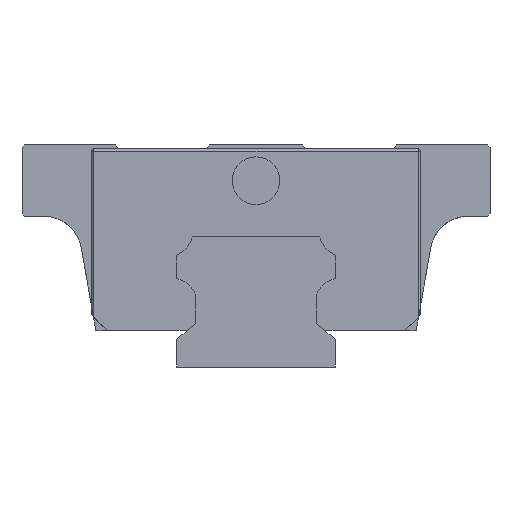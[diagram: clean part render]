
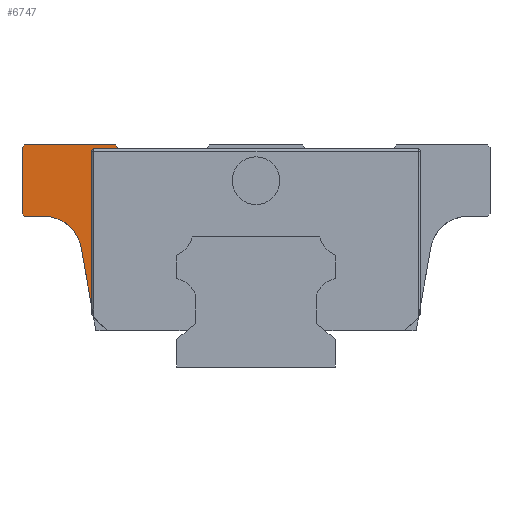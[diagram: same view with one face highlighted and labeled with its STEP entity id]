
A CAD part, left-side view. The second image highlights one B-rep face of the part: STEP entity #6747.
In plain terms, the highlighted planar face has unit normal (-1, 0, 0).
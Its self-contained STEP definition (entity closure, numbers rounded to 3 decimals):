
#182 = VERTEX_POINT ( 'NONE', #6853 ) ;
#212 = VECTOR ( 'NONE', #935, 1000. ) ;
#220 = DIRECTION ( 'NONE',  ( 0., 1., 0. ) ) ;
#221 = VERTEX_POINT ( 'NONE', #2458 ) ;
#358 = CARTESIAN_POINT ( 'NONE',  ( -23.35, 29.5, 19. ) ) ;
#365 = LINE ( 'NONE', #2621, #4552 ) ;
#409 = DIRECTION ( 'NONE',  ( 1., 0., 0. ) ) ;
#437 = CIRCLE ( 'NONE', #5624, 4.75 ) ;
#513 = LINE ( 'NONE', #6689, #5243 ) ;
#520 = ORIENTED_EDGE ( 'NONE', *, *, #5217, .T. ) ;
#572 = LINE ( 'NONE', #2244, #5264 ) ;
#649 = ORIENTED_EDGE ( 'NONE', *, *, #3395, .T. ) ;
#852 = EDGE_CURVE ( 'NONE', #6588, #6713, #437, .T. ) ;
#871 = CARTESIAN_POINT ( 'NONE',  ( -23.35, 29.205, 28. ) ) ;
#935 = DIRECTION ( 'NONE',  ( 0., -1., 0. ) ) ;
#947 = DIRECTION ( 'NONE',  ( -1., 0., 0. ) ) ;
#1073 = LINE ( 'NONE', #2295, #6769 ) ;
#1306 = CARTESIAN_POINT ( 'NONE',  ( -23.35, 20.752, 26.875 ) ) ;
#1310 = LINE ( 'NONE', #2389, #1494 ) ;
#1348 = AXIS2_PLACEMENT_3D ( 'NONE', #5802, #4761, #3627 ) ;
#1484 = DIRECTION ( 'NONE',  ( 0., -0.174, -0.985 ) ) ;
#1494 = VECTOR ( 'NONE', #220, 1000. ) ;
#1683 = VERTEX_POINT ( 'NONE', #2412 ) ;
#1802 = VERTEX_POINT ( 'NONE', #871 ) ;
#1859 = ORIENTED_EDGE ( 'NONE', *, *, #5030, .T. ) ;
#2044 = ORIENTED_EDGE ( 'NONE', *, *, #852, .T. ) ;
#2077 = VECTOR ( 'NONE', #3005, 1000. ) ;
#2134 = DIRECTION ( 'NONE',  ( 0., 0., 1. ) ) ;
#2244 = CARTESIAN_POINT ( 'NONE',  ( -23.35, 17.228, 27.438 ) ) ;
#2295 = CARTESIAN_POINT ( 'NONE',  ( -23.35, -20.542, 27.505 ) ) ;
#2389 = CARTESIAN_POINT ( 'NONE',  ( -23.35, 17.7, 28. ) ) ;
#2412 = CARTESIAN_POINT ( 'NONE',  ( -23.35, 17.7, 28. ) ) ;
#2458 = CARTESIAN_POINT ( 'NONE',  ( -23.35, 17.285, 27.505 ) ) ;
#2540 = EDGE_CURVE ( 'NONE', #5247, #5805, #4117, .T. ) ;
#2588 = CARTESIAN_POINT ( 'NONE',  ( -23.35, 22.036, 15.075 ) ) ;
#2621 = CARTESIAN_POINT ( 'NONE',  ( -23.35, 21.932, 35.273 ) ) ;
#2775 = CARTESIAN_POINT ( 'NONE',  ( -23.35, 26.714, 14.25 ) ) ;
#2852 = EDGE_CURVE ( 'NONE', #221, #6372, #1073, .T. ) ;
#3005 = DIRECTION ( 'NONE',  ( 0., 0., -1. ) ) ;
#3069 = CARTESIAN_POINT ( 'NONE',  ( -23.35, 20.457, 27.505 ) ) ;
#3130 = VECTOR ( 'NONE', #6251, 1000. ) ;
#3371 = DIRECTION ( 'NONE',  ( 0., 1., 0. ) ) ;
#3382 = ORIENTED_EDGE ( 'NONE', *, *, #4121, .T. ) ;
#3395 = EDGE_CURVE ( 'NONE', #3633, #182, #4027, .T. ) ;
#3516 = EDGE_LOOP ( 'NONE', ( #4945, #520, #1859, #5179, #4524, #649, #4503, #2044, #6194, #6686, #3382 ) ) ;
#3538 = EDGE_CURVE ( 'NONE', #1802, #4113, #365, .T. ) ;
#3627 = DIRECTION ( 'NONE',  ( 0., 0., 1. ) ) ;
#3633 = VERTEX_POINT ( 'NONE', #6270 ) ;
#3863 = EDGE_CURVE ( 'NONE', #6713, #5805, #6091, .T. ) ;
#4027 = LINE ( 'NONE', #5231, #3130 ) ;
#4113 = VERTEX_POINT ( 'NONE', #6841 ) ;
#4117 = LINE ( 'NONE', #1306, #2077 ) ;
#4121 = EDGE_CURVE ( 'NONE', #5247, #6372, #6279, .T. ) ;
#4197 = AXIS2_PLACEMENT_3D ( 'NONE', #4419, #947, #2134 ) ;
#4419 = CARTESIAN_POINT ( 'NONE',  ( -23.35, -8.741, 4.6 ) ) ;
#4456 = EDGE_CURVE ( 'NONE', #4113, #3633, #513, .T. ) ;
#4503 = ORIENTED_EDGE ( 'NONE', *, *, #5065, .T. ) ;
#4524 = ORIENTED_EDGE ( 'NONE', *, *, #4456, .T. ) ;
#4539 = DIRECTION ( 'NONE',  ( 0., 0., -1. ) ) ;
#4552 = VECTOR ( 'NONE', #4858, 1000. ) ;
#4761 = DIRECTION ( 'NONE',  ( 1., 0., 0. ) ) ;
#4858 = DIRECTION ( 'NONE',  ( 0., 0.707, -0.707 ) ) ;
#4945 = ORIENTED_EDGE ( 'NONE', *, *, #2852, .F. ) ;
#4965 = CARTESIAN_POINT ( 'NONE',  ( -23.35, 20.752, 27.21 ) ) ;
#4973 = PLANE ( 'NONE',  #4197 ) ;
#5030 = EDGE_CURVE ( 'NONE', #1683, #1802, #1310, .T. ) ;
#5065 = EDGE_CURVE ( 'NONE', #182, #6588, #6970, .T. ) ;
#5095 = CARTESIAN_POINT ( 'NONE',  ( -23.35, 26.714, 19. ) ) ;
#5179 = ORIENTED_EDGE ( 'NONE', *, *, #3538, .T. ) ;
#5217 = EDGE_CURVE ( 'NONE', #221, #1683, #572, .T. ) ;
#5223 = CARTESIAN_POINT ( 'NONE',  ( -23.35, 20.752, 7.791 ) ) ;
#5231 = CARTESIAN_POINT ( 'NONE',  ( -23.35, 3.032, -7.173 ) ) ;
#5243 = VECTOR ( 'NONE', #4539, 1000. ) ;
#5247 = VERTEX_POINT ( 'NONE', #4965 ) ;
#5264 = VECTOR ( 'NONE', #7191, 1000. ) ;
#5358 = VECTOR ( 'NONE', #1484, 1000. ) ;
#5624 = AXIS2_PLACEMENT_3D ( 'NONE', #2775, #409, #7133 ) ;
#5802 = CARTESIAN_POINT ( 'NONE',  ( -23.35, 20.457, 27.21 ) ) ;
#5805 = VERTEX_POINT ( 'NONE', #5223 ) ;
#6091 = LINE ( 'NONE', #7036, #5358 ) ;
#6194 = ORIENTED_EDGE ( 'NONE', *, *, #3863, .T. ) ;
#6251 = DIRECTION ( 'NONE',  ( 0., -0.707, -0.707 ) ) ;
#6270 = CARTESIAN_POINT ( 'NONE',  ( -23.35, 29.5, 19.295 ) ) ;
#6279 = CIRCLE ( 'NONE', #1348, 0.295 ) ;
#6372 = VERTEX_POINT ( 'NONE', #3069 ) ;
#6588 = VERTEX_POINT ( 'NONE', #5095 ) ;
#6609 = FACE_OUTER_BOUND ( 'NONE', #3516, .T. ) ;
#6686 = ORIENTED_EDGE ( 'NONE', *, *, #2540, .F. ) ;
#6689 = CARTESIAN_POINT ( 'NONE',  ( -23.35, 29.5, 28. ) ) ;
#6713 = VERTEX_POINT ( 'NONE', #2588 ) ;
#6747 = ADVANCED_FACE ( 'NONE', ( #6609 ), #4973, .T. ) ;
#6769 = VECTOR ( 'NONE', #3371, 1000. ) ;
#6841 = CARTESIAN_POINT ( 'NONE',  ( -23.35, 29.5, 27.705 ) ) ;
#6853 = CARTESIAN_POINT ( 'NONE',  ( -23.35, 29.205, 19. ) ) ;
#6970 = LINE ( 'NONE', #358, #212 ) ;
#7036 = CARTESIAN_POINT ( 'NONE',  ( -23.35, 22.728, 19. ) ) ;
#7133 = DIRECTION ( 'NONE',  ( 0., 0., 1. ) ) ;
#7191 = DIRECTION ( 'NONE',  ( 0., 0.643, 0.766 ) ) ;
